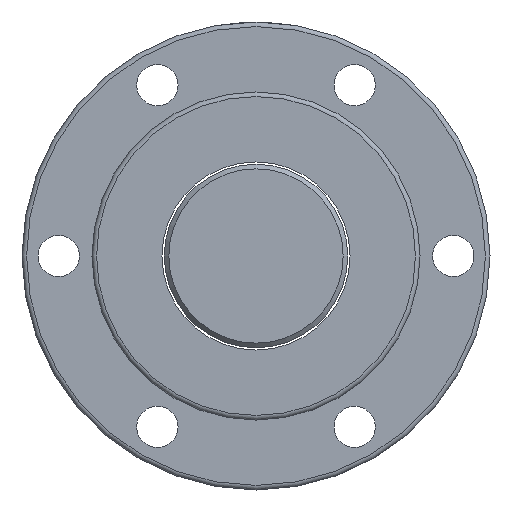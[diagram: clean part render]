
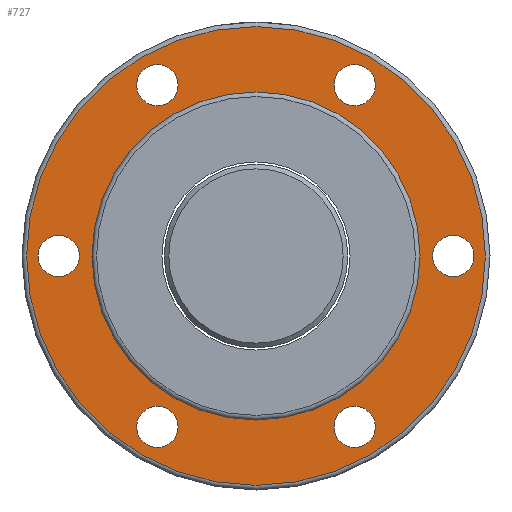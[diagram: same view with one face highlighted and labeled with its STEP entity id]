
A CAD part, left-side view. The second image highlights one B-rep face of the part: STEP entity #727.
In plain terms, the highlighted planar face has unit normal (-1, 0, 0).
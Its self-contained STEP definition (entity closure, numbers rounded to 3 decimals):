
#14 = EDGE_CURVE ( 'NONE', #57, #57, #2076, .T. ) ;
#57 = VERTEX_POINT ( 'NONE', #1377 ) ;
#72 = DIRECTION ( 'NONE',  ( 0., 0., -1. ) ) ;
#77 = DIRECTION ( 'NONE',  ( 0., 0., -1. ) ) ;
#95 = EDGE_CURVE ( 'NONE', #690, #690, #1305, .T. ) ;
#106 = EDGE_LOOP ( 'NONE', ( #1438 ) ) ;
#114 = AXIS2_PLACEMENT_3D ( 'NONE', #1828, #314, #72 ) ;
#120 = ORIENTED_EDGE ( 'NONE', *, *, #95, .T. ) ;
#127 = DIRECTION ( 'NONE',  ( 1., 0., 0. ) ) ;
#155 = PLANE ( 'NONE',  #1558 ) ;
#164 = ORIENTED_EDGE ( 'NONE', *, *, #2508, .F. ) ;
#248 = AXIS2_PLACEMENT_3D ( 'NONE', #772, #1142, #1168 ) ;
#251 = DIRECTION ( 'NONE',  ( 1., 0., 0. ) ) ;
#314 = DIRECTION ( 'NONE',  ( 1., 0., 0. ) ) ;
#315 = VERTEX_POINT ( 'NONE', #585 ) ;
#326 = FACE_BOUND ( 'NONE', #2185, .T. ) ;
#329 = CARTESIAN_POINT ( 'NONE',  ( -48., 43., -83.478 ) ) ;
#351 = FACE_OUTER_BOUND ( 'NONE', #2378, .T. ) ;
#373 = CARTESIAN_POINT ( 'NONE',  ( -48., 43., 74.478 ) ) ;
#380 = CIRCLE ( 'NONE', #1650, 9. ) ;
#478 = AXIS2_PLACEMENT_3D ( 'NONE', #1734, #2186, #1093 ) ;
#529 = CARTESIAN_POINT ( 'NONE',  ( -48., 86., -9. ) ) ;
#548 = FACE_BOUND ( 'NONE', #2671, .T. ) ;
#585 = CARTESIAN_POINT ( 'NONE',  ( -48., -43., -83.478 ) ) ;
#665 = CIRCLE ( 'NONE', #1522, 9. ) ;
#690 = VERTEX_POINT ( 'NONE', #529 ) ;
#700 = EDGE_CURVE ( 'NONE', #1012, #1012, #1648, .T. ) ;
#727 = ADVANCED_FACE ( 'NONE', ( #1236, #1866, #326, #2110, #1444, #548, #351, #2477 ), #155, .F. ) ;
#759 = VERTEX_POINT ( 'NONE', #813 ) ;
#772 = CARTESIAN_POINT ( 'NONE',  ( -48., -86., 0. ) ) ;
#813 = CARTESIAN_POINT ( 'NONE',  ( -48., 0., -100. ) ) ;
#845 = DIRECTION ( 'NONE',  ( 0., 0., -1. ) ) ;
#996 = VERTEX_POINT ( 'NONE', #2707 ) ;
#1012 = VERTEX_POINT ( 'NONE', #2327 ) ;
#1015 = AXIS2_PLACEMENT_3D ( 'NONE', #1386, #127, #2516 ) ;
#1093 = DIRECTION ( 'NONE',  ( 0., 0., -1. ) ) ;
#1118 = EDGE_LOOP ( 'NONE', ( #120 ) ) ;
#1129 = CARTESIAN_POINT ( 'NONE',  ( -48., 86., 0. ) ) ;
#1142 = DIRECTION ( 'NONE',  ( 1., 0., 0. ) ) ;
#1168 = DIRECTION ( 'NONE',  ( 0., 0., -1. ) ) ;
#1169 = DIRECTION ( 'NONE',  ( 1., 0., 0. ) ) ;
#1194 = DIRECTION ( 'NONE',  ( 0., 1., 0. ) ) ;
#1236 = FACE_BOUND ( 'NONE', #1118, .T. ) ;
#1243 = CIRCLE ( 'NONE', #248, 9. ) ;
#1290 = ORIENTED_EDGE ( 'NONE', *, *, #14, .T. ) ;
#1305 = CIRCLE ( 'NONE', #2757, 9. ) ;
#1344 = ORIENTED_EDGE ( 'NONE', *, *, #2126, .T. ) ;
#1377 = CARTESIAN_POINT ( 'NONE',  ( -48., -43., 65.478 ) ) ;
#1386 = CARTESIAN_POINT ( 'NONE',  ( -48., 0., 0. ) ) ;
#1404 = VERTEX_POINT ( 'NONE', #329 ) ;
#1419 = VERTEX_POINT ( 'NONE', #1621 ) ;
#1438 = ORIENTED_EDGE ( 'NONE', *, *, #1708, .T. ) ;
#1444 = FACE_BOUND ( 'NONE', #2169, .T. ) ;
#1522 = AXIS2_PLACEMENT_3D ( 'NONE', #373, #1683, #2319 ) ;
#1558 = AXIS2_PLACEMENT_3D ( 'NONE', #2096, #2501, #1194 ) ;
#1579 = DIRECTION ( 'NONE',  ( 1., 0., 0. ) ) ;
#1621 = CARTESIAN_POINT ( 'NONE',  ( -48., -86., -9. ) ) ;
#1648 = CIRCLE ( 'NONE', #1015, 71.5 ) ;
#1650 = AXIS2_PLACEMENT_3D ( 'NONE', #2209, #251, #845 ) ;
#1683 = DIRECTION ( 'NONE',  ( 1., 0., 0. ) ) ;
#1708 = EDGE_CURVE ( 'NONE', #1419, #1419, #1243, .T. ) ;
#1734 = CARTESIAN_POINT ( 'NONE',  ( -48., 0., 0. ) ) ;
#1828 = CARTESIAN_POINT ( 'NONE',  ( -48., -43., 74.478 ) ) ;
#1841 = DIRECTION ( 'NONE',  ( 0., 0., -1. ) ) ;
#1859 = EDGE_LOOP ( 'NONE', ( #1344 ) ) ;
#1866 = FACE_BOUND ( 'NONE', #106, .T. ) ;
#1902 = ORIENTED_EDGE ( 'NONE', *, *, #2252, .T. ) ;
#1916 = ORIENTED_EDGE ( 'NONE', *, *, #2618, .T. ) ;
#1936 = AXIS2_PLACEMENT_3D ( 'NONE', #2279, #1579, #77 ) ;
#2076 = CIRCLE ( 'NONE', #114, 9. ) ;
#2096 = CARTESIAN_POINT ( 'NONE',  ( -48., 85.75, 0. ) ) ;
#2105 = EDGE_LOOP ( 'NONE', ( #2317 ) ) ;
#2110 = FACE_BOUND ( 'NONE', #1859, .T. ) ;
#2126 = EDGE_CURVE ( 'NONE', #315, #315, #2702, .T. ) ;
#2169 = EDGE_LOOP ( 'NONE', ( #1290 ) ) ;
#2171 = CIRCLE ( 'NONE', #478, 100. ) ;
#2185 = EDGE_LOOP ( 'NONE', ( #1916 ) ) ;
#2186 = DIRECTION ( 'NONE',  ( 1., 0., 0. ) ) ;
#2209 = CARTESIAN_POINT ( 'NONE',  ( -48., 43., -74.478 ) ) ;
#2252 = EDGE_CURVE ( 'NONE', #996, #996, #665, .T. ) ;
#2279 = CARTESIAN_POINT ( 'NONE',  ( -48., -43., -74.478 ) ) ;
#2317 = ORIENTED_EDGE ( 'NONE', *, *, #700, .T. ) ;
#2319 = DIRECTION ( 'NONE',  ( 0., 0., -1. ) ) ;
#2327 = CARTESIAN_POINT ( 'NONE',  ( -48., 0., -71.5 ) ) ;
#2378 = EDGE_LOOP ( 'NONE', ( #164 ) ) ;
#2477 = FACE_BOUND ( 'NONE', #2105, .T. ) ;
#2501 = DIRECTION ( 'NONE',  ( 1., 0., 0. ) ) ;
#2508 = EDGE_CURVE ( 'NONE', #759, #759, #2171, .T. ) ;
#2516 = DIRECTION ( 'NONE',  ( 0., 0., -1. ) ) ;
#2618 = EDGE_CURVE ( 'NONE', #1404, #1404, #380, .T. ) ;
#2671 = EDGE_LOOP ( 'NONE', ( #1902 ) ) ;
#2702 = CIRCLE ( 'NONE', #1936, 9. ) ;
#2707 = CARTESIAN_POINT ( 'NONE',  ( -48., 43., 65.478 ) ) ;
#2757 = AXIS2_PLACEMENT_3D ( 'NONE', #1129, #1169, #1841 ) ;
